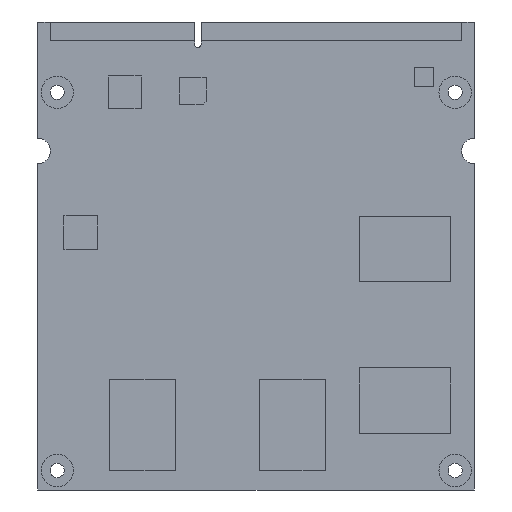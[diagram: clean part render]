
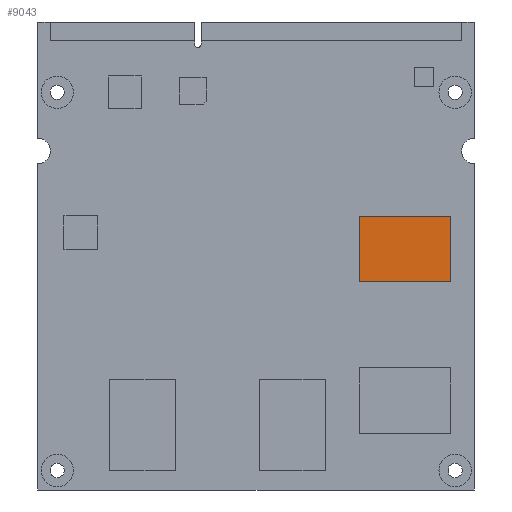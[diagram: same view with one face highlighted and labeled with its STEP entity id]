
A CAD part, front view. The second image highlights one B-rep face of the part: STEP entity #9043.
In plain terms, the highlighted planar face has unit normal (0, -1, 0).
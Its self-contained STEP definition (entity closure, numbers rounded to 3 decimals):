
#1155 = ORIENTED_EDGE ( 'NONE', *, *, #2920, .F. ) ;
#1158 = ORIENTED_EDGE ( 'NONE', *, *, #2921, .F. ) ;
#1166 = ORIENTED_EDGE ( 'NONE', *, *, #2922, .F. ) ;
#1169 = ORIENTED_EDGE ( 'NONE', *, *, #2919, .F. ) ;
#1926 = EDGE_LOOP ( 'NONE', ( #1169, #1155, #1158, #1166 ) ) ;
#2664 = AXIS2_PLACEMENT_3D ( 'NONE', #3188, #3189, #3190 ) ;
#2919 = EDGE_CURVE ( 'NONE', #8028, #8025, #7163, .T. ) ;
#2920 = EDGE_CURVE ( 'NONE', #8033, #8028, #7150, .T. ) ;
#2921 = EDGE_CURVE ( 'NONE', #8029, #8033, #7155, .T. ) ;
#2922 = EDGE_CURVE ( 'NONE', #8025, #8029, #7164, .T. ) ;
#3163 = PLANE ( 'NONE',  #2664 ) ;
#3178 = FACE_OUTER_BOUND ( 'NONE', #1926, .T. ) ;
#3188 = CARTESIAN_POINT ( 'NONE',  ( 15.99, -1.6, -4.016 ) ) ;
#3189 = DIRECTION ( 'NONE',  ( 0., -1., 0. ) ) ;
#3190 = DIRECTION ( 'NONE',  ( 0., 0., -1. ) ) ;
#4576 = CARTESIAN_POINT ( 'NONE',  ( 15.99, -1.6, 6.084 ) ) ;
#4584 = CARTESIAN_POINT ( 'NONE',  ( 15.99, -1.6, -4.016 ) ) ;
#4585 = CARTESIAN_POINT ( 'NONE',  ( 30.09, -1.6, 6.084 ) ) ;
#4589 = CARTESIAN_POINT ( 'NONE',  ( 30.09, -1.6, -4.016 ) ) ;
#7150 = LINE ( 'NONE', #7167, #10017 ) ;
#7155 = LINE ( 'NONE', #7170, #10020 ) ;
#7163 = LINE ( 'NONE', #7165, #10019 ) ;
#7164 = LINE ( 'NONE', #7173, #10021 ) ;
#7165 = CARTESIAN_POINT ( 'NONE',  ( 15.99, -1.6, 6.084 ) ) ;
#7166 = DIRECTION ( 'NONE',  ( 0., 0., 1. ) ) ;
#7167 = CARTESIAN_POINT ( 'NONE',  ( 15.99, -1.6, -4.016 ) ) ;
#7169 = DIRECTION ( 'NONE',  ( -1., 0., 0. ) ) ;
#7170 = CARTESIAN_POINT ( 'NONE',  ( 30.09, -1.6, -4.016 ) ) ;
#7172 = DIRECTION ( 'NONE',  ( 0., 0., -1. ) ) ;
#7173 = CARTESIAN_POINT ( 'NONE',  ( 30.09, -1.6, 6.084 ) ) ;
#7175 = DIRECTION ( 'NONE',  ( 1., 0., 0. ) ) ;
#8025 = VERTEX_POINT ( 'NONE', #4576 ) ;
#8028 = VERTEX_POINT ( 'NONE', #4584 ) ;
#8029 = VERTEX_POINT ( 'NONE', #4585 ) ;
#8033 = VERTEX_POINT ( 'NONE', #4589 ) ;
#9043 = ADVANCED_FACE ( 'NONE', ( #3178 ), #3163, .T. ) ;
#10017 = VECTOR ( 'NONE', #7169, 1000. ) ;
#10019 = VECTOR ( 'NONE', #7166, 1000. ) ;
#10020 = VECTOR ( 'NONE', #7172, 1000. ) ;
#10021 = VECTOR ( 'NONE', #7175, 1000. ) ;
